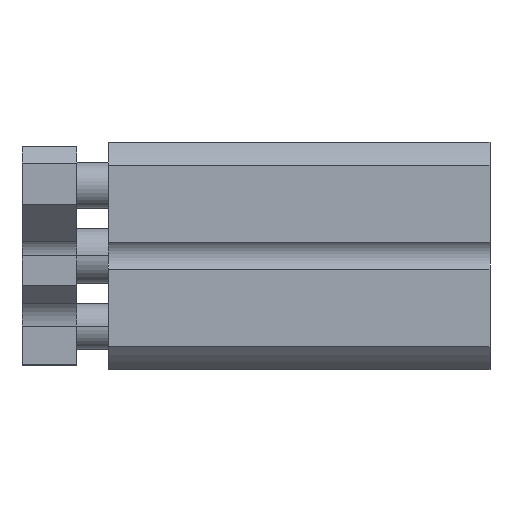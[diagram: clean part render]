
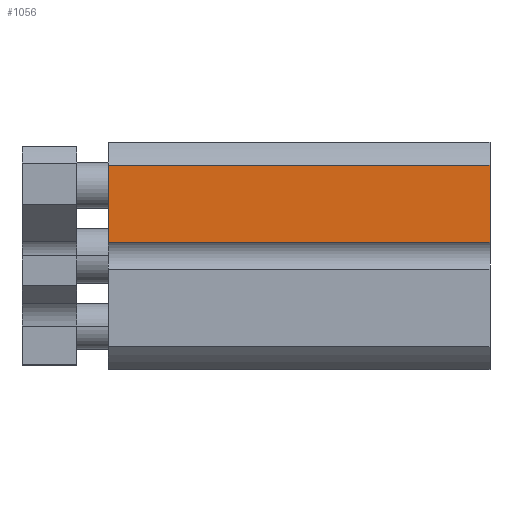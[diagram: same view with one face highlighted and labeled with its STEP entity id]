
A CAD part, top view. The second image highlights one B-rep face of the part: STEP entity #1056.
In plain terms, the highlighted planar face has unit normal (0, 0, 1).
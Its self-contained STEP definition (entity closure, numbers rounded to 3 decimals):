
#23 = CARTESIAN_POINT ( 'NONE',  ( 42., 1.5, 12.5 ) ) ;
#64 = CARTESIAN_POINT ( 'NONE',  ( 42., 9.987, 12.5 ) ) ;
#70 = VECTOR ( 'NONE', #1015, 1000. ) ;
#210 = VERTEX_POINT ( 'NONE', #1145 ) ;
#279 = LINE ( 'NONE', #2328, #3748 ) ;
#444 = VECTOR ( 'NONE', #2079, 1000. ) ;
#725 = EDGE_CURVE ( 'NONE', #783, #2009, #1816, .T. ) ;
#783 = VERTEX_POINT ( 'NONE', #1584 ) ;
#827 = EDGE_LOOP ( 'NONE', ( #1434, #2425, #887, #2211 ) ) ;
#887 = ORIENTED_EDGE ( 'NONE', *, *, #1929, .F. ) ;
#1015 = DIRECTION ( 'NONE',  ( -1., 0., 0. ) ) ;
#1056 = ADVANCED_FACE ( 'NONE', ( #1168 ), #2363, .F. ) ;
#1145 = CARTESIAN_POINT ( 'NONE',  ( 42., 9.987, 12.5 ) ) ;
#1168 = FACE_OUTER_BOUND ( 'NONE', #827, .T. ) ;
#1280 = DIRECTION ( 'NONE',  ( -1., 0., 0. ) ) ;
#1434 = ORIENTED_EDGE ( 'NONE', *, *, #3880, .T. ) ;
#1584 = CARTESIAN_POINT ( 'NONE',  ( 42., 1.5, 12.5 ) ) ;
#1816 = LINE ( 'NONE', #23, #70 ) ;
#1929 = EDGE_CURVE ( 'NONE', #210, #783, #279, .T. ) ;
#2009 = VERTEX_POINT ( 'NONE', #3866 ) ;
#2038 = DIRECTION ( 'NONE',  ( 0., 0., -1. ) ) ;
#2079 = DIRECTION ( 'NONE',  ( 0., -1., 0. ) ) ;
#2211 = ORIENTED_EDGE ( 'NONE', *, *, #2657, .T. ) ;
#2328 = CARTESIAN_POINT ( 'NONE',  ( 42., 9.987, 12.5 ) ) ;
#2363 = PLANE ( 'NONE',  #3831 ) ;
#2366 = LINE ( 'NONE', #2689, #444 ) ;
#2425 = ORIENTED_EDGE ( 'NONE', *, *, #725, .F. ) ;
#2542 = VECTOR ( 'NONE', #1280, 1000. ) ;
#2631 = DIRECTION ( 'NONE',  ( 0., -1., 0. ) ) ;
#2657 = EDGE_CURVE ( 'NONE', #210, #3765, #3392, .T. ) ;
#2689 = CARTESIAN_POINT ( 'NONE',  ( 0., 9.987, 12.5 ) ) ;
#2924 = CARTESIAN_POINT ( 'NONE',  ( 0., 9.987, 12.5 ) ) ;
#3262 = CARTESIAN_POINT ( 'NONE',  ( 42., 9.987, 12.5 ) ) ;
#3295 = DIRECTION ( 'NONE',  ( 0., -1., 0. ) ) ;
#3392 = LINE ( 'NONE', #64, #2542 ) ;
#3748 = VECTOR ( 'NONE', #2631, 1000. ) ;
#3765 = VERTEX_POINT ( 'NONE', #2924 ) ;
#3831 = AXIS2_PLACEMENT_3D ( 'NONE', #3262, #2038, #3295 ) ;
#3866 = CARTESIAN_POINT ( 'NONE',  ( 0., 1.5, 12.5 ) ) ;
#3880 = EDGE_CURVE ( 'NONE', #3765, #2009, #2366, .T. ) ;
